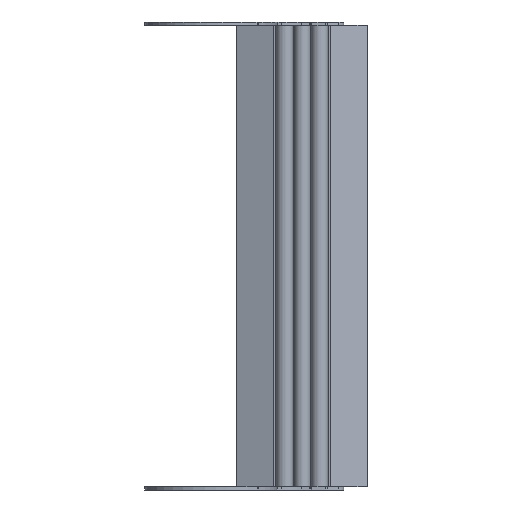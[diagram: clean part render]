
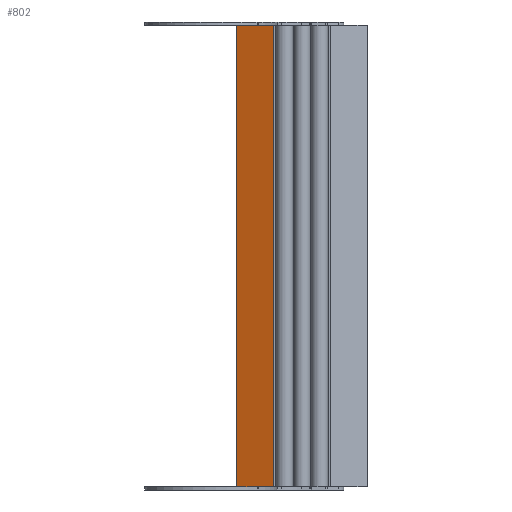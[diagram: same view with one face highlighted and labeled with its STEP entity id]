
A CAD part, front view. The second image highlights one B-rep face of the part: STEP entity #802.
In plain terms, the highlighted planar face has unit normal (-0.342, -0.94, 0).
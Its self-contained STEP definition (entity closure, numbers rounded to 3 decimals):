
#12 = AXIS2_PLACEMENT_3D ( 'NONE', #2106, #5941, #3752 ) ;
#142 = DIRECTION ( 'NONE',  ( 0., 0., 1. ) ) ;
#228 = VECTOR ( 'NONE', #3821, 1000. ) ;
#320 = VECTOR ( 'NONE', #142, 1000. ) ;
#339 = LINE ( 'NONE', #2728, #1127 ) ;
#565 = VERTEX_POINT ( 'NONE', #3989 ) ;
#802 = ADVANCED_FACE ( 'NONE', ( #4763 ), #7055, .F. ) ;
#1127 = VECTOR ( 'NONE', #4879, 1000. ) ;
#1212 = ORIENTED_EDGE ( 'NONE', *, *, #6061, .T. ) ;
#1789 = LINE ( 'NONE', #3503, #320 ) ;
#1867 = EDGE_LOOP ( 'NONE', ( #1212, #5235, #6537, #4247 ) ) ;
#2106 = CARTESIAN_POINT ( 'NONE',  ( 56.745, 61.65, -418. ) ) ;
#2200 = VERTEX_POINT ( 'NONE', #2366 ) ;
#2315 = VERTEX_POINT ( 'NONE', #2552 ) ;
#2366 = CARTESIAN_POINT ( 'NONE',  ( 56.745, 61.65, -418. ) ) ;
#2552 = CARTESIAN_POINT ( 'NONE',  ( 23.4, 73.787, -418. ) ) ;
#2728 = CARTESIAN_POINT ( 'NONE',  ( 23.4, 73.787, -418. ) ) ;
#2951 = EDGE_CURVE ( 'NONE', #2315, #3677, #339, .T. ) ;
#3503 = CARTESIAN_POINT ( 'NONE',  ( 56.745, 61.65, -418. ) ) ;
#3677 = VERTEX_POINT ( 'NONE', #5399 ) ;
#3752 = DIRECTION ( 'NONE',  ( -0.94, 0.342, 0. ) ) ;
#3821 = DIRECTION ( 'NONE',  ( -0.94, 0.342, 0. ) ) ;
#3989 = CARTESIAN_POINT ( 'NONE',  ( 56.745, 61.65, 0. ) ) ;
#4247 = ORIENTED_EDGE ( 'NONE', *, *, #5093, .T. ) ;
#4478 = VECTOR ( 'NONE', #6448, 1000. ) ;
#4763 = FACE_OUTER_BOUND ( 'NONE', #1867, .T. ) ;
#4822 = CARTESIAN_POINT ( 'NONE',  ( 56.745, 61.65, 0. ) ) ;
#4879 = DIRECTION ( 'NONE',  ( 0., 0., 1. ) ) ;
#5093 = EDGE_CURVE ( 'NONE', #2200, #565, #1789, .T. ) ;
#5235 = ORIENTED_EDGE ( 'NONE', *, *, #2951, .F. ) ;
#5399 = CARTESIAN_POINT ( 'NONE',  ( 23.4, 73.787, 0. ) ) ;
#5444 = EDGE_CURVE ( 'NONE', #2200, #2315, #6088, .T. ) ;
#5471 = CARTESIAN_POINT ( 'NONE',  ( 56.745, 61.65, -418. ) ) ;
#5529 = LINE ( 'NONE', #4822, #4478 ) ;
#5941 = DIRECTION ( 'NONE',  ( 0.342, 0.94, 0. ) ) ;
#6061 = EDGE_CURVE ( 'NONE', #565, #3677, #5529, .T. ) ;
#6088 = LINE ( 'NONE', #5471, #228 ) ;
#6448 = DIRECTION ( 'NONE',  ( -0.94, 0.342, 0. ) ) ;
#6537 = ORIENTED_EDGE ( 'NONE', *, *, #5444, .F. ) ;
#7055 = PLANE ( 'NONE',  #12 ) ;
